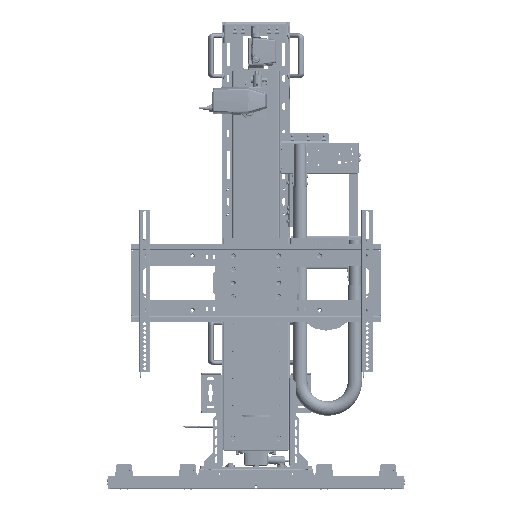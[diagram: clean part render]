
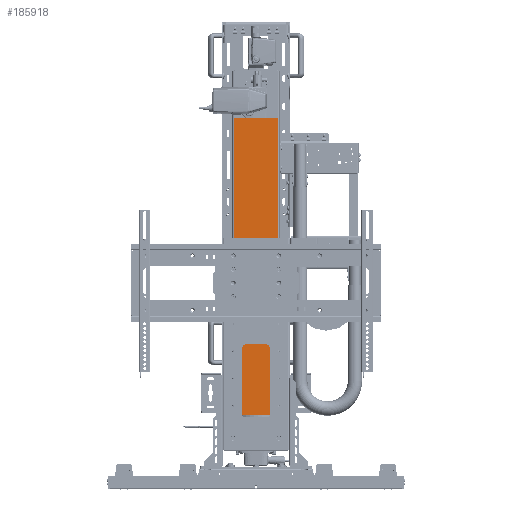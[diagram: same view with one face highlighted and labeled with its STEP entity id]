
A CAD part, front view. The second image highlights one B-rep face of the part: STEP entity #185918.
In plain terms, the highlighted planar face has unit normal (0, -1, 0) as drawn and (0, 1, 0) by its records, which use the part's own axes.
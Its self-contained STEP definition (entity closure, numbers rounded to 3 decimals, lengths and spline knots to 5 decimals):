
#22000=LINE('',#345621,#36274);
#22001=LINE('',#345623,#36275);
#22002=LINE('',#345625,#36276);
#22003=LINE('',#345627,#36277);
#36274=VECTOR('',#239274,1.);
#36275=VECTOR('',#239277,1.);
#36276=VECTOR('',#239278,1.);
#36277=VECTOR('',#239279,1.);
#69737=ORIENTED_EDGE('',*,*,#108758,.F.);
#69738=ORIENTED_EDGE('',*,*,#108757,.F.);
#69739=ORIENTED_EDGE('',*,*,#108759,.T.);
#69740=ORIENTED_EDGE('',*,*,#108760,.T.);
#108757=EDGE_CURVE('',#130450,#130449,#22000,.T.);
#108758=EDGE_CURVE('',#130449,#130451,#22001,.T.);
#108759=EDGE_CURVE('',#130450,#130452,#22002,.T.);
#108760=EDGE_CURVE('',#130452,#130451,#22003,.T.);
#130449=VERTEX_POINT('',#345618);
#130450=VERTEX_POINT('',#345620);
#130451=VERTEX_POINT('',#345624);
#130452=VERTEX_POINT('',#345626);
#154020=EDGE_LOOP('',(#69737,#69738,#69739,#69740));
#168057=FACE_BOUND('',#154020,.T.);
#178120=PLANE('',#203626);
#185918=ADVANCED_FACE('',(#168057),#178120,.T.);
#203626=AXIS2_PLACEMENT_3D('',#345622,#239275,#239276);
#239274=DIRECTION('',(0.,0.,-1.));
#239275=DIRECTION('',(0.,1.,0.));
#239276=DIRECTION('',(0.,0.,1.));
#239277=DIRECTION('',(1.,0.,0.));
#239278=DIRECTION('',(1.,0.,0.));
#239279=DIRECTION('',(0.,0.,-1.));
#345618=CARTESIAN_POINT('',(-0.06194,0.0856,-0.41402));
#345620=CARTESIAN_POINT('',(-0.06194,0.0856,0.41402));
#345621=CARTESIAN_POINT('',(-0.06194,0.0856,0.41402));
#345622=CARTESIAN_POINT('',(-0.06579,0.0856,0.41402));
#345623=CARTESIAN_POINT('',(-0.06194,0.0856,-0.41402));
#345624=CARTESIAN_POINT('',(0.06194,0.0856,-0.41402));
#345625=CARTESIAN_POINT('',(-0.06579,0.0856,0.41402));
#345626=CARTESIAN_POINT('',(0.06194,0.0856,0.41402));
#345627=CARTESIAN_POINT('',(0.06194,0.0856,0.41402));
